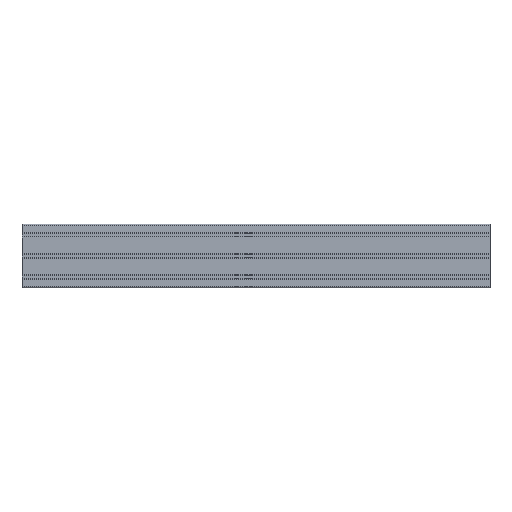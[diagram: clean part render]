
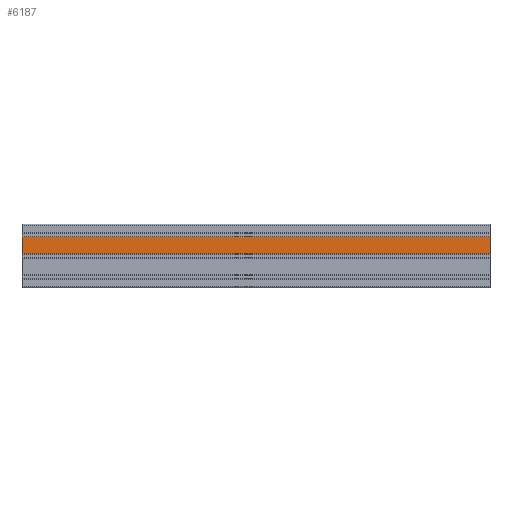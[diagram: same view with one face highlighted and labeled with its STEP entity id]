
A CAD part, top view. The second image highlights one B-rep face of the part: STEP entity #6187.
In plain terms, the highlighted planar face has unit normal (0, 0, 1).
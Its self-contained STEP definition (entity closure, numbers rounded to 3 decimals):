
#786 = VERTEX_POINT ( 'NONE', #2943 ) ;
#868 = CARTESIAN_POINT ( 'NONE',  ( 1000., 40.6, 22.5 ) ) ;
#873 = DIRECTION ( 'NONE',  ( -1., 0., 0. ) ) ;
#1144 = CARTESIAN_POINT ( 'NONE',  ( 0., 40.6, 22.5 ) ) ;
#1396 = CARTESIAN_POINT ( 'NONE',  ( 0., 4.4, 22.5 ) ) ;
#1836 = CARTESIAN_POINT ( 'NONE',  ( 1000., 40.6, 22.5 ) ) ;
#1991 = VECTOR ( 'NONE', #2540, 1000. ) ;
#2128 = VECTOR ( 'NONE', #873, 1000. ) ;
#2294 = VECTOR ( 'NONE', #8938, 1000. ) ;
#2468 = EDGE_CURVE ( 'NONE', #786, #8503, #7532, .T. ) ;
#2540 = DIRECTION ( 'NONE',  ( 0., -1., 0. ) ) ;
#2611 = DIRECTION ( 'NONE',  ( 0., 1., 0. ) ) ;
#2630 = VERTEX_POINT ( 'NONE', #4961 ) ;
#2727 = VERTEX_POINT ( 'NONE', #6253 ) ;
#2891 = ORIENTED_EDGE ( 'NONE', *, *, #3341, .F. ) ;
#2943 = CARTESIAN_POINT ( 'NONE',  ( 0., 40.6, 22.5 ) ) ;
#3181 = LINE ( 'NONE', #3950, #1991 ) ;
#3341 = EDGE_CURVE ( 'NONE', #2727, #2630, #3181, .T. ) ;
#3624 = PLANE ( 'NONE',  #7078 ) ;
#3950 = CARTESIAN_POINT ( 'NONE',  ( 1000., 40.6, 22.5 ) ) ;
#3995 = EDGE_CURVE ( 'NONE', #2727, #786, #7857, .T. ) ;
#4231 = ORIENTED_EDGE ( 'NONE', *, *, #6065, .F. ) ;
#4343 = DIRECTION ( 'NONE',  ( -1., 0., 0. ) ) ;
#4349 = FACE_OUTER_BOUND ( 'NONE', #8286, .T. ) ;
#4961 = CARTESIAN_POINT ( 'NONE',  ( 1000., 4.4, 22.5 ) ) ;
#6065 = EDGE_CURVE ( 'NONE', #2630, #8503, #7685, .T. ) ;
#6187 = ADVANCED_FACE ( 'NONE', ( #4349 ), #3624, .F. ) ;
#6253 = CARTESIAN_POINT ( 'NONE',  ( 1000., 40.6, 22.5 ) ) ;
#6591 = CARTESIAN_POINT ( 'NONE',  ( 1000., 4.4, 22.5 ) ) ;
#6685 = DIRECTION ( 'NONE',  ( 0., 0., -1. ) ) ;
#7078 = AXIS2_PLACEMENT_3D ( 'NONE', #1836, #6685, #2611 ) ;
#7105 = ORIENTED_EDGE ( 'NONE', *, *, #3995, .T. ) ;
#7308 = VECTOR ( 'NONE', #4343, 1000. ) ;
#7532 = LINE ( 'NONE', #1144, #2294 ) ;
#7685 = LINE ( 'NONE', #6591, #2128 ) ;
#7791 = ORIENTED_EDGE ( 'NONE', *, *, #2468, .T. ) ;
#7857 = LINE ( 'NONE', #868, #7308 ) ;
#8286 = EDGE_LOOP ( 'NONE', ( #7791, #4231, #2891, #7105 ) ) ;
#8503 = VERTEX_POINT ( 'NONE', #1396 ) ;
#8938 = DIRECTION ( 'NONE',  ( 0., -1., 0. ) ) ;
